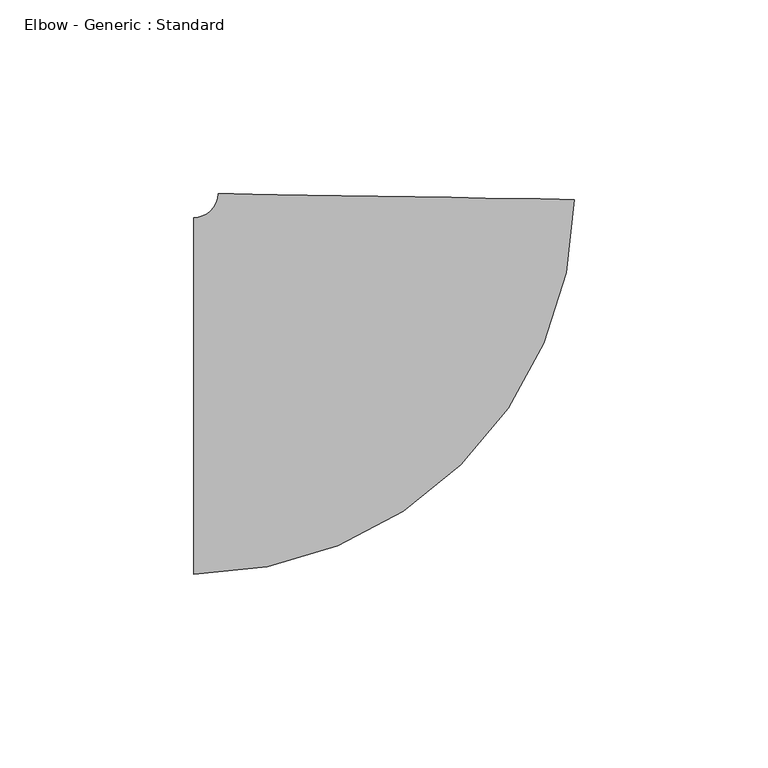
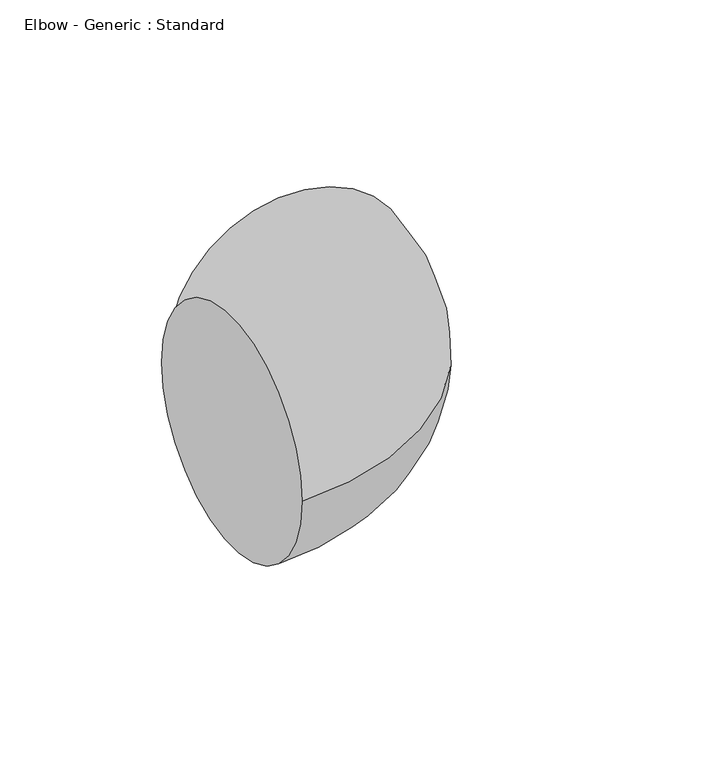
"""IFC4 building model written with IfcOpenShell, lengths in millimetres: pipe fitting geometry, Elbow - Generic : Standard."""

from ifc_helpers import new_model, si_unit, point, frame, origin, place, context, project, spatial, circle_curve, ellipse_curve, trimmed, source, transform, mapped, element, save
from ifc_brep_helpers import plane_surface, revolved_surface, advanced_brep


def elbow_generic_standard_da60b183(model_context):
    return source(origin(), model_context, "Body", "AdvancedBrep", [
        advanced_brep(
        [(-51.5116856, -46.0375, 0.0), (-51.5116856, 46.0375, 0.0), (46.8993281, 50.7282779, 0.0), (-45.1625879, 52.2804534, 0.0)],
        [
            (0, 1, circle_curve(frame((-51.5116856, 0.0, 0.0), z_axis=(-1.0, 0.0, 0.0), x_axis=(0.0, 1.0, 0.0)), 46.0375)),
            (1, 0, circle_curve(frame((-51.5116856, 0.0, 0.0), z_axis=(-1.0, 0.0, 0.0), x_axis=(0.0, 1.0, 0.0)), 46.0375)),
            (2, 3, circle_curve(frame((0.8683701, 51.5043657, 0.0), z_axis=(0.016857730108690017, 0.9998578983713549, 0.0), x_axis=(-0.9998578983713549, 0.016857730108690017, 0.0)), 46.0375)),
            (3, 2, circle_curve(frame((0.8683701, 51.5043657, 0.0), z_axis=(0.016857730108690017, 0.9998578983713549, 0.0), x_axis=(-0.9998578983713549, 0.016857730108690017, 0.0)), 46.0375)),
            (3, 1, circle_curve(frame((-51.5116856, 52.3875, 0.0), z_axis=(0.0, 0.0, -1.0), x_axis=(0.0, -1.0, 0.0)), 6.35)),
            (0, 2, circle_curve(frame((-51.5116856, 52.3875, 0.0), z_axis=(0.0, 0.0, 1.0), x_axis=(0.0, -1.0, 0.0)), 98.425)),
        ],
        [
            plane_surface(frame((-51.5116856, 0.0, 0.0), z_axis=(-1.0, 0.0, 0.0), x_axis=(0.0, 0.0, 1.0))),
            plane_surface(frame((0.8683701, 51.5043657, 0.0), z_axis=(0.01685773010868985, 0.9998578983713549, 0.0), x_axis=(0.0, 0.0, 1.0))),
            revolved_surface(trimmed(ellipse_curve(frame((-51.5116856, 0.0, 0.0), z_axis=(-1.0, 0.0, 0.0), x_axis=(0.0, 1.0, 0.0)), 46.0375, 46.0375), [point((-51.5116856, -46.0375, 0.0))], [point((-51.5116856, 46.0375, 0.0))], True, "CARTESIAN"), (-51.5116856, 52.3875, 0.0), (0.0, 0.0, 1.0)),
            revolved_surface(trimmed(ellipse_curve(frame((-51.5116856, 0.0, 0.0), z_axis=(-1.0, 0.0, 0.0), x_axis=(0.0, 1.0, 0.0)), 46.0375, 46.0375), [point((-51.5116856, 46.0375, 0.0))], [point((-51.5116856, -46.0375, 0.0))], True, "CARTESIAN"), (-51.5116856, 52.3875, 0.0), (0.0, 0.0, 1.0)),
        ],
        [
            (0, [[1, 2]]),
            (1, [[3, 4]]),
            (2, [[5, -1, 6, -4]]),
            (3, [[-6, -2, -5, -3]]),
        ],
    ),
    ])


if __name__ == "__main__":
    model = new_model("IFC4")
    model_context = context("Model", 3, world=origin())
    ifc_project = project(units=[si_unit("LENGTHUNIT", "METRE", prefix="MILLI")], contexts=[model_context])
    site = spatial("IfcSite", under=ifc_project)
    building = spatial("IfcBuilding", under=site)
    placement = place(None, origin())
    elbow_generic_standard_shape = elbow_generic_standard_da60b183(model_context)
    element("IfcPipeFitting", 1, ObjectType="Elbow - Generic : Standard", at=placement, inside=building, context=model_context, shape_type="MappedRepresentation", body=[
        mapped(elbow_generic_standard_shape, transform((0.0, 0.0, 0.0), x_axis=(1.0, 0.0, 0.0), y_axis=(0.0, 1.0, 0.0), z_axis=(0.0, 0.0, 1.0))),
    ])
    save(model, "model.ifc")
